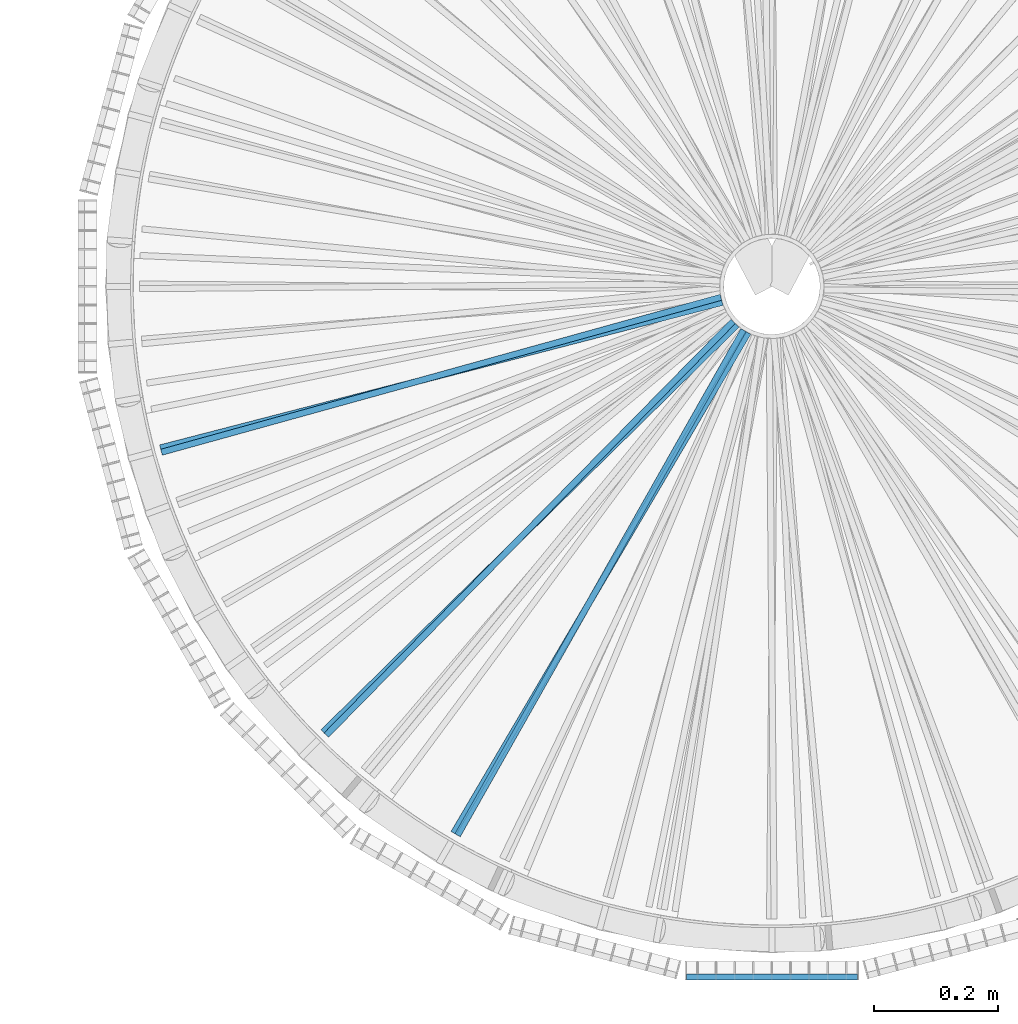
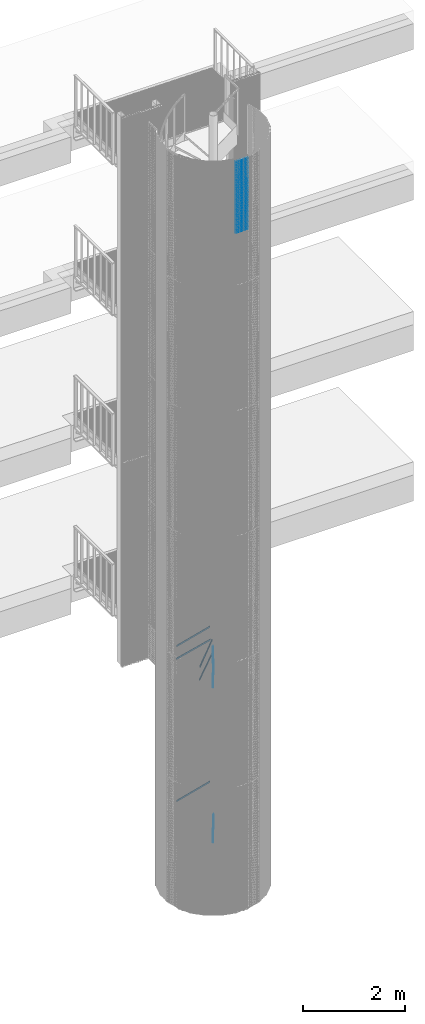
# One storey, part 375 of 1148: 66 beams, 2 elements without a shape of their own.
"""IFC2X3 building model written with IfcOpenShell, lengths in millimetres."""

import ifcopenshell
import ifcopenshell.guid

model = None  # the IFC model being written
_history = None  # IfcOwnerHistory: only IFC2X3 demands one
_inside = {}  # id of a spatial element -> (the spatial element, [elements in it])
_under = {}  # id of a project, library or spatial element -> (it, [spatial elements below it])
_declared = {}  # id of a project -> (the project, [libraries it declares])
_typed = {}  # id of a type object -> (the type object, [elements of that type])
_made_of = {}  # id of a material, layer set ... -> (it, [elements and type objects made of it])


def new_model(schema):
    """Start an empty IFC model of exactly this schema.

    Asked for "IFC4X3", IfcOpenShell would pick the latest addendum, in which some entities
    have other attributes; the version numbers below select the first issue.
    IFC2X3 requires an IfcOwnerHistory on every rooted entity: one is made here for all.
    """
    global model, _history
    if schema == "IFC4X3":
        model = ifcopenshell.file(schema_version=(4, 3, 0, 0))
    else:
        model = ifcopenshell.file(schema=schema)
    _inside.clear()
    _under.clear()
    _declared.clear()
    _typed.clear()
    _made_of.clear()
    _history = None
    if model.schema == "IFC2X3":
        org = make("IfcOrganization", Name="unknown")
        user = make(
            "IfcPersonAndOrganization",
            ThePerson=make("IfcPerson", FamilyName="unknown"),
            TheOrganization=org,
        )
        app = make(
            "IfcApplication",
            ApplicationDeveloper=org,
            Version="unknown",
            ApplicationFullName="unknown",
            ApplicationIdentifier="unknown",
        )
        _history = make(
            "IfcOwnerHistory",
            OwningUser=user,
            OwningApplication=app,
            ChangeAction="ADDED",
            CreationDate=0,
        )
    return model


def make(cls, **values):
    """One entity of the class cls with the attributes given. An attribute that is None is left unset."""
    return model.create_entity(
        cls, **{name: value for name, value in values.items() if value is not None}
    )


def rooted(cls, **values):
    """An entity with a GlobalId (a new one), such as an element, a storey or a relation."""
    return make(cls, GlobalId=ifcopenshell.guid.new(), OwnerHistory=_history, **values)


def si_unit(unit_type, name, prefix=None):
    """IfcSIUnit, for example si_unit("LENGTHUNIT", "METRE", prefix="MILLI")."""
    return make("IfcSIUnit", UnitType=unit_type, Prefix=prefix, Name=name)


def assignment(units):
    """IfcUnitAssignment: the units of a project."""
    return None if units is None else make("IfcUnitAssignment", Units=units)


def point(xyz):
    """IfcCartesianPoint."""
    return None if xyz is None else make("IfcCartesianPoint", Coordinates=xyz)


def direction(xyz):
    """IfcDirection."""
    return None if xyz is None else make("IfcDirection", DirectionRatios=xyz)


def frame(location, z_axis=None, x_axis=None):
    """IfcAxis2Placement3D, a coordinate frame: its origin and axes. An axis left out is left unset."""
    return make(
        "IfcAxis2Placement3D",
        Location=point(location),
        Axis=direction(z_axis),
        RefDirection=direction(x_axis),
    )


def frame_2d(location, x_axis=None):
    """IfcAxis2Placement2D, a coordinate frame in the plane: its origin and x axis."""
    return make(
        "IfcAxis2Placement2D", Location=point(location), RefDirection=direction(x_axis)
    )


def origin_with_axes():
    """The frame at (0, 0, 0) with the z axis (0, 0, 1) and the x axis (1, 0, 0) written out."""
    return frame((0.0, 0.0, 0.0), z_axis=(0.0, 0.0, 1.0), x_axis=(1.0, 0.0, 0.0))


def origin_2d_with_axis():
    """The frame at (0, 0) in the plane with the x axis (1, 0) written out."""
    return frame_2d((0.0, 0.0), x_axis=(1.0, 0.0))


def place(relative_to, where):
    """IfcLocalPlacement: puts the frame where relative to a parent placement (None: the world)."""
    return make(
        "IfcLocalPlacement", PlacementRelTo=relative_to, RelativePlacement=where
    )


def context(
    kind, dimensions, precision=None, world=None, true_north=None, identifier=None
):
    """IfcGeometricRepresentationContext, for example the 3D "Model" context."""
    return make(
        "IfcGeometricRepresentationContext",
        ContextIdentifier=identifier,
        ContextType=kind,
        CoordinateSpaceDimension=dimensions,
        Precision=precision,
        WorldCoordinateSystem=world,
        TrueNorth=true_north,
    )


def subcontext(parent, identifier, kind, view, scale=None):
    """IfcGeometricRepresentationSubContext, for example "Body" below "Model"."""
    return make(
        "IfcGeometricRepresentationSubContext",
        ContextIdentifier=identifier,
        ContextType=kind,
        ParentContext=parent,
        TargetScale=scale,
        TargetView=view,
    )


def project(units=None, contexts=None):
    """IfcProject with its units and contexts."""
    return rooted(
        "IfcProject",
        Name="project",
        RepresentationContexts=contexts,
        UnitsInContext=assignment(units),
    )


def spatial(cls, under=None, at=None, **own):
    """A site, building, storey or space (cls), placed at a placement, below another one or the project."""
    s = rooted(cls, ObjectPlacement=at, **own)
    if under is not None:
        _under.setdefault(under.id(), (under, []))[1].append(s)
    return s


def profile(cls, at=None, kind="AREA", **sizes):
    """A parametric profile (cls). Its sizes go by their IFC names, for example OverallWidth=200.0."""
    return make(cls, ProfileType=kind, Position=at, **sizes)


def rectangle(**sizes):
    """IfcRectangleProfileDef."""
    return profile("IfcRectangleProfileDef", **sizes)


def extrude(swept, where, along, depth):
    """IfcExtrudedAreaSolid: the profile swept, set in the frame where, extruded along a direction by depth."""
    return make(
        "IfcExtrudedAreaSolid",
        SweptArea=swept,
        Position=where,
        ExtrudedDirection=direction(along),
        Depth=depth,
    )


def shape(context_of_items, identifier, shape_type, items):
    """IfcShapeRepresentation: the items that make up one representation, for example the "Body"."""
    return make(
        "IfcShapeRepresentation",
        ContextOfItems=context_of_items,
        RepresentationIdentifier=identifier,
        RepresentationType=shape_type,
        Items=items,
    )


def material(Name=None, Category=None):
    """IfcMaterial."""
    return make("IfcMaterial", Name=Name, Category=Category)


def made_of(thing, what):
    """Note that an element or type object is made of a material, layer set ...; save() writes the relation."""
    if what is not None:
        _made_of.setdefault(what.id(), (what, []))[1].append(thing)
    return thing


def type_object(cls, material=None, **own):
    """A type object (cls), such as IfcWallType, which elements share."""
    return made_of(rooted(cls, **own), material)


def element(
    cls,
    number,
    at=None,
    inside=None,
    cuts=None,
    type_object=None,
    material=None,
    context=None,
    identifier="Body",
    shape_type=None,
    held_by="IfcProductDefinitionShape",
    body=None,
    shapes=None,
    **own,
):
    """One element of the class cls, such as IfcWall. Its Tag is "e" and its number.

    at: its placement. inside: the storey or other place that contains it. cuts: it is an
    opening in that element (IfcRelVoidsElement). A single representation is given by context,
    identifier, shape_type and body (its items); several are given by shapes. held_by: the class
    of the entity that holds the representations. save() writes the other relations.
    """
    e = rooted(cls, Tag="e%d" % number, ObjectPlacement=at, **own)
    if body is not None:
        shapes = [shape(context, identifier, shape_type, body)]
    if shapes is not None:
        e.Representation = make(held_by, Representations=shapes)
    if inside is not None:
        _inside.setdefault(inside.id(), (inside, []))[1].append(e)
    if cuts is not None:
        rooted(
            "IfcRelVoidsElement", RelatingBuildingElement=cuts, RelatedOpeningElement=e
        )
    if type_object is not None:
        _typed.setdefault(type_object.id(), (type_object, []))[1].append(e)
    return made_of(e, material)


def aggregate(whole, parts):
    """IfcRelAggregates: a whole, such as a stair, and the parts it consists of."""
    return rooted("IfcRelAggregates", RelatingObject=whole, RelatedObjects=parts)


def save(model, path):
    """Write the relations noted so far, then the file.

    IfcRelAggregates (storeys below a building ...), IfcRelContainedInSpatialStructure (elements
    in a storey), IfcRelDefinesByType, IfcRelAssociatesMaterial and IfcRelDeclares: one each for
    every whole, place, type object, material and project.
    """
    for whole, parts in _under.values():
        aggregate(whole, parts)
    for where, things in _inside.values():
        rooted(
            "IfcRelContainedInSpatialStructure",
            RelatedElements=things,
            RelatingStructure=where,
        )
    for kind, things in _typed.values():
        rooted("IfcRelDefinesByType", RelatedObjects=things, RelatingType=kind)
    for what, things in _made_of.values():
        rooted("IfcRelAssociatesMaterial", RelatedObjects=things, RelatingMaterial=what)
    for by, libraries in _declared.values():
        rooted("IfcRelDeclares", RelatingContext=by, RelatedDefinitions=libraries)
    model.write(path)


model = new_model("IFC2X3")

# Units and contexts
model_context = context("Model", 3, precision=1e-05, world=origin_with_axes())
body_context = subcontext(model_context, "Body", "Model", "MODEL_VIEW")
ifc_project = project(units=[si_unit("LENGTHUNIT", "METRE", prefix="MILLI"), si_unit("AREAUNIT", "SQUARE_METRE"), si_unit("VOLUMEUNIT", "CUBIC_METRE"), si_unit("MASSUNIT", "GRAM", prefix="KILO"), si_unit("TIMEUNIT", "SECOND"), si_unit("PLANEANGLEUNIT", "RADIAN"), si_unit("SOLIDANGLEUNIT", "STERADIAN"), si_unit("THERMODYNAMICTEMPERATUREUNIT", "DEGREE_CELSIUS"), si_unit("LUMINOUSINTENSITYUNIT", "LUMEN")], contexts=[model_context])

# Site, building, storey
site_placement = place(None, origin_with_axes())
site = spatial("IfcSite", under=ifc_project, at=site_placement, Name="Undefined", CompositionType="ELEMENT")
building_placement = place(site_placement, origin_with_axes())
building = spatial("IfcBuilding", under=site, at=building_placement, Name="Undefined", CompositionType="ELEMENT")
storey_placement = place(building_placement, origin_with_axes())
storey = spatial("IfcBuildingStorey", under=building, at=storey_placement, Name="Undefined", CompositionType="ELEMENT", Elevation=0.0)

# Assembly, beams
assembly_1_placement = place(storey_placement, origin_with_axes())
assembly_1 = element("IfcElementAssembly", 1, at=assembly_1_placement, inside=storey, Name="BORDURE", AssemblyPlace="NOTDEFINED", PredefinedType="NOTDEFINED")
ifc_material = material(Name="STEEL/S235JR")
beam_type_1 = type_object("IfcBeamType", Name="PL2*10", PredefinedType="NOTDEFINED")
beam_1_placement = place(assembly_1_placement, frame((21737.9960033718, -1113.47999999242, 17970.0), z_axis=(0.0, -1.0, 0.0), x_axis=(-1.0, 0.0, 0.0)))
beam_1 = element("IfcBeam", 2, at=beam_1_placement, type_object=beam_type_1, material=ifc_material, Name="ENTRETOISE", context=body_context, shape_type="SweptSolid", body=[
    extrude(rectangle(XDim=2.0, YDim=10.0, at=origin_2d_with_axis()), frame((275.999999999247, 9.09494701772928e-13, 1.53210777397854e-14), z_axis=(-1.0, 0.0, 0.0), x_axis=(0.0, -1.0, 0.0)), (0.0, 0.0, 1.0), 276.0),
])
beam_2_placement = place(assembly_1_placement, frame((21737.9960033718, -1113.47999999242, 17940.0), z_axis=(0.0, -1.0, 0.0), x_axis=(-1.0, 0.0, 0.0)))
beam_2 = element("IfcBeam", 3, at=beam_2_placement, type_object=beam_type_1, material=ifc_material, Name="ENTRETOISE", context=body_context, shape_type="SweptSolid", body=[
    extrude(rectangle(XDim=2.0, YDim=10.0, at=origin_2d_with_axis()), frame((275.999999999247, 9.09494701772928e-13, 1.53210777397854e-14), z_axis=(-1.0, 0.0, 0.0), x_axis=(0.0, -1.0, 0.0)), (0.0, 0.0, 1.0), 276.0),
])
beam_3_placement = place(assembly_1_placement, frame((21737.9960033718, -1113.47999999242, 17910.0), z_axis=(0.0, -1.0, 0.0), x_axis=(-1.0, 0.0, 0.0)))
beam_3 = element("IfcBeam", 4, at=beam_3_placement, type_object=beam_type_1, material=ifc_material, Name="ENTRETOISE", context=body_context, shape_type="SweptSolid", body=[
    extrude(rectangle(XDim=2.0, YDim=10.0, at=origin_2d_with_axis()), frame((275.999999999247, 9.09494701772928e-13, 1.53210777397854e-14), z_axis=(-1.0, 0.0, 0.0), x_axis=(0.0, -1.0, 0.0)), (0.0, 0.0, 1.0), 276.0),
])
beam_4_placement = place(assembly_1_placement, frame((21737.9960033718, -1113.47999999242, 17880.0), z_axis=(0.0, -1.0, 0.0), x_axis=(-1.0, 0.0, 0.0)))
beam_4 = element("IfcBeam", 5, at=beam_4_placement, type_object=beam_type_1, material=ifc_material, Name="ENTRETOISE", context=body_context, shape_type="SweptSolid", body=[
    extrude(rectangle(XDim=2.0, YDim=10.0, at=origin_2d_with_axis()), frame((275.999999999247, 9.09494701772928e-13, 1.53210777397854e-14), z_axis=(-1.0, 0.0, 0.0), x_axis=(0.0, -1.0, 0.0)), (0.0, 0.0, 1.0), 276.0),
])
beam_5_placement = place(assembly_1_placement, frame((21737.9960033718, -1113.47999999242, 17850.0), z_axis=(0.0, -1.0, 0.0), x_axis=(-1.0, 0.0, 0.0)))
beam_5 = element("IfcBeam", 6, at=beam_5_placement, type_object=beam_type_1, material=ifc_material, Name="ENTRETOISE", context=body_context, shape_type="SweptSolid", body=[
    extrude(rectangle(XDim=2.0, YDim=10.0, at=origin_2d_with_axis()), frame((275.999999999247, 9.09494701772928e-13, 1.53210777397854e-14), z_axis=(-1.0, 0.0, 0.0), x_axis=(0.0, -1.0, 0.0)), (0.0, 0.0, 1.0), 276.0),
])
beam_6_placement = place(assembly_1_placement, frame((21737.9960033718, -1113.47999999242, 17820.0), z_axis=(0.0, -1.0, 0.0), x_axis=(-1.0, 0.0, 0.0)))
beam_6 = element("IfcBeam", 7, at=beam_6_placement, type_object=beam_type_1, material=ifc_material, Name="ENTRETOISE", context=body_context, shape_type="SweptSolid", body=[
    extrude(rectangle(XDim=2.0, YDim=10.0, at=origin_2d_with_axis()), frame((275.999999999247, 9.09494701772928e-13, 1.53210777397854e-14), z_axis=(-1.0, 0.0, 0.0), x_axis=(0.0, -1.0, 0.0)), (0.0, 0.0, 1.0), 276.0),
])
beam_7_placement = place(assembly_1_placement, frame((21737.9960033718, -1113.47999999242, 17790.0), z_axis=(0.0, -1.0, 0.0), x_axis=(-1.0, 0.0, 0.0)))
beam_7 = element("IfcBeam", 8, at=beam_7_placement, type_object=beam_type_1, material=ifc_material, Name="ENTRETOISE", context=body_context, shape_type="SweptSolid", body=[
    extrude(rectangle(XDim=2.0, YDim=10.0, at=origin_2d_with_axis()), frame((275.999999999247, 9.09494701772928e-13, 1.53210777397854e-14), z_axis=(-1.0, 0.0, 0.0), x_axis=(0.0, -1.0, 0.0)), (0.0, 0.0, 1.0), 276.0),
])
beam_8_placement = place(assembly_1_placement, frame((21737.9960033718, -1113.47999999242, 17760.0), z_axis=(0.0, -1.0, 0.0), x_axis=(-1.0, 0.0, 0.0)))
beam_8 = element("IfcBeam", 9, at=beam_8_placement, type_object=beam_type_1, material=ifc_material, Name="ENTRETOISE", context=body_context, shape_type="SweptSolid", body=[
    extrude(rectangle(XDim=2.0, YDim=10.0, at=origin_2d_with_axis()), frame((275.999999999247, 9.09494701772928e-13, 1.53210777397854e-14), z_axis=(-1.0, 0.0, 0.0), x_axis=(0.0, -1.0, 0.0)), (0.0, 0.0, 1.0), 276.0),
])
beam_9_placement = place(assembly_1_placement, frame((21737.9960033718, -1113.47999999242, 17730.0), z_axis=(0.0, -1.0, 0.0), x_axis=(-1.0, 0.0, 0.0)))
beam_9 = element("IfcBeam", 10, at=beam_9_placement, type_object=beam_type_1, material=ifc_material, Name="ENTRETOISE", context=body_context, shape_type="SweptSolid", body=[
    extrude(rectangle(XDim=2.0, YDim=10.0, at=origin_2d_with_axis()), frame((275.999999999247, 9.09494701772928e-13, 1.53210777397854e-14), z_axis=(-1.0, 0.0, 0.0), x_axis=(0.0, -1.0, 0.0)), (0.0, 0.0, 1.0), 276.0),
])
beam_10_placement = place(assembly_1_placement, frame((21737.9960033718, -1113.47999999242, 17700.0), z_axis=(0.0, -1.0, 0.0), x_axis=(-1.0, 0.0, 0.0)))
beam_10 = element("IfcBeam", 11, at=beam_10_placement, type_object=beam_type_1, material=ifc_material, Name="ENTRETOISE", context=body_context, shape_type="SweptSolid", body=[
    extrude(rectangle(XDim=2.0, YDim=10.0, at=origin_2d_with_axis()), frame((275.999999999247, 9.09494701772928e-13, 1.53210777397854e-14), z_axis=(-1.0, 0.0, 0.0), x_axis=(0.0, -1.0, 0.0)), (0.0, 0.0, 1.0), 276.0),
])
beam_11_placement = place(assembly_1_placement, frame((21737.9960033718, -1113.47999999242, 17670.0), z_axis=(0.0, -1.0, 0.0), x_axis=(-1.0, 0.0, 0.0)))
beam_11 = element("IfcBeam", 12, at=beam_11_placement, type_object=beam_type_1, material=ifc_material, Name="ENTRETOISE", context=body_context, shape_type="SweptSolid", body=[
    extrude(rectangle(XDim=2.0, YDim=10.0, at=origin_2d_with_axis()), frame((275.999999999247, 9.09494701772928e-13, 1.53210777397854e-14), z_axis=(-1.0, 0.0, 0.0), x_axis=(0.0, -1.0, 0.0)), (0.0, 0.0, 1.0), 276.0),
])
beam_12_placement = place(assembly_1_placement, frame((21737.9960033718, -1113.47999999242, 17640.0), z_axis=(0.0, -1.0, 0.0), x_axis=(-1.0, 0.0, 0.0)))
beam_12 = element("IfcBeam", 13, at=beam_12_placement, type_object=beam_type_1, material=ifc_material, Name="ENTRETOISE", context=body_context, shape_type="SweptSolid", body=[
    extrude(rectangle(XDim=2.0, YDim=10.0, at=origin_2d_with_axis()), frame((275.999999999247, 9.09494701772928e-13, 1.53210777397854e-14), z_axis=(-1.0, 0.0, 0.0), x_axis=(0.0, -1.0, 0.0)), (0.0, 0.0, 1.0), 276.0),
])
beam_13_placement = place(assembly_1_placement, frame((21737.9960033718, -1113.47999999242, 17610.0), z_axis=(0.0, -1.0, 0.0), x_axis=(-1.0, 0.0, 0.0)))
beam_13 = element("IfcBeam", 14, at=beam_13_placement, type_object=beam_type_1, material=ifc_material, Name="ENTRETOISE", context=body_context, shape_type="SweptSolid", body=[
    extrude(rectangle(XDim=2.0, YDim=10.0, at=origin_2d_with_axis()), frame((275.999999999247, 9.09494701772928e-13, 1.53210777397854e-14), z_axis=(-1.0, 0.0, 0.0), x_axis=(0.0, -1.0, 0.0)), (0.0, 0.0, 1.0), 276.0),
])
beam_14_placement = place(assembly_1_placement, frame((21737.9960033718, -1113.47999999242, 17580.0), z_axis=(0.0, -1.0, 0.0), x_axis=(-1.0, 0.0, 0.0)))
beam_14 = element("IfcBeam", 15, at=beam_14_placement, type_object=beam_type_1, material=ifc_material, Name="ENTRETOISE", context=body_context, shape_type="SweptSolid", body=[
    extrude(rectangle(XDim=2.0, YDim=10.0, at=origin_2d_with_axis()), frame((275.999999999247, 9.09494701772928e-13, 1.53210777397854e-14), z_axis=(-1.0, 0.0, 0.0), x_axis=(0.0, -1.0, 0.0)), (0.0, 0.0, 1.0), 276.0),
])
beam_15_placement = place(assembly_1_placement, frame((21737.9960033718, -1113.47999999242, 17550.0), z_axis=(0.0, -1.0, 0.0), x_axis=(-1.0, 0.0, 0.0)))
beam_15 = element("IfcBeam", 16, at=beam_15_placement, type_object=beam_type_1, material=ifc_material, Name="ENTRETOISE", context=body_context, shape_type="SweptSolid", body=[
    extrude(rectangle(XDim=2.0, YDim=10.0, at=origin_2d_with_axis()), frame((275.999999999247, 9.09494701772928e-13, 1.53210777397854e-14), z_axis=(-1.0, 0.0, 0.0), x_axis=(0.0, -1.0, 0.0)), (0.0, 0.0, 1.0), 276.0),
])
beam_16_placement = place(assembly_1_placement, frame((21737.9960033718, -1113.47999999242, 17520.0), z_axis=(0.0, -1.0, 0.0), x_axis=(-1.0, 0.0, 0.0)))
beam_16 = element("IfcBeam", 17, at=beam_16_placement, type_object=beam_type_1, material=ifc_material, Name="ENTRETOISE", context=body_context, shape_type="SweptSolid", body=[
    extrude(rectangle(XDim=2.0, YDim=10.0, at=origin_2d_with_axis()), frame((275.999999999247, 9.09494701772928e-13, 1.53210777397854e-14), z_axis=(-1.0, 0.0, 0.0), x_axis=(0.0, -1.0, 0.0)), (0.0, 0.0, 1.0), 276.0),
])
beam_17_placement = place(assembly_1_placement, frame((21737.9960033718, -1113.47999999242, 17490.0), z_axis=(0.0, -1.0, 0.0), x_axis=(-1.0, 0.0, 0.0)))
beam_17 = element("IfcBeam", 18, at=beam_17_placement, type_object=beam_type_1, material=ifc_material, Name="ENTRETOISE", context=body_context, shape_type="SweptSolid", body=[
    extrude(rectangle(XDim=2.0, YDim=10.0, at=origin_2d_with_axis()), frame((275.999999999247, 9.09494701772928e-13, 1.53210777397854e-14), z_axis=(-1.0, 0.0, 0.0), x_axis=(0.0, -1.0, 0.0)), (0.0, 0.0, 1.0), 276.0),
])
beam_18_placement = place(assembly_1_placement, frame((21737.9960033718, -1113.47999999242, 17460.0), z_axis=(0.0, -1.0, 0.0), x_axis=(-1.0, 0.0, 0.0)))
beam_18 = element("IfcBeam", 19, at=beam_18_placement, type_object=beam_type_1, material=ifc_material, Name="ENTRETOISE", context=body_context, shape_type="SweptSolid", body=[
    extrude(rectangle(XDim=2.0, YDim=10.0, at=origin_2d_with_axis()), frame((275.999999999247, 9.09494701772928e-13, 1.53210777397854e-14), z_axis=(-1.0, 0.0, 0.0), x_axis=(0.0, -1.0, 0.0)), (0.0, 0.0, 1.0), 276.0),
])
beam_19_placement = place(assembly_1_placement, frame((21737.9960033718, -1113.47999999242, 17430.0), z_axis=(0.0, -1.0, 0.0), x_axis=(-1.0, 0.0, 0.0)))
beam_19 = element("IfcBeam", 20, at=beam_19_placement, type_object=beam_type_1, material=ifc_material, Name="ENTRETOISE", context=body_context, shape_type="SweptSolid", body=[
    extrude(rectangle(XDim=2.0, YDim=10.0, at=origin_2d_with_axis()), frame((275.999999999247, 9.09494701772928e-13, 1.53210777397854e-14), z_axis=(-1.0, 0.0, 0.0), x_axis=(0.0, -1.0, 0.0)), (0.0, 0.0, 1.0), 276.0),
])
beam_20_placement = place(assembly_1_placement, frame((21737.9960033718, -1113.47999999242, 17400.0), z_axis=(0.0, -1.0, 0.0), x_axis=(-1.0, 0.0, 0.0)))
beam_20 = element("IfcBeam", 21, at=beam_20_placement, type_object=beam_type_1, material=ifc_material, Name="ENTRETOISE", context=body_context, shape_type="SweptSolid", body=[
    extrude(rectangle(XDim=2.0, YDim=10.0, at=origin_2d_with_axis()), frame((275.999999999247, 9.09494701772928e-13, 1.53210777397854e-14), z_axis=(-1.0, 0.0, 0.0), x_axis=(0.0, -1.0, 0.0)), (0.0, 0.0, 1.0), 276.0),
])
beam_21_placement = place(assembly_1_placement, frame((21737.9960033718, -1113.47999999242, 17370.0), z_axis=(0.0, -1.0, 0.0), x_axis=(-1.0, 0.0, 0.0)))
beam_21 = element("IfcBeam", 22, at=beam_21_placement, type_object=beam_type_1, material=ifc_material, Name="ENTRETOISE", context=body_context, shape_type="SweptSolid", body=[
    extrude(rectangle(XDim=2.0, YDim=10.0, at=origin_2d_with_axis()), frame((275.999999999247, 9.09494701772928e-13, 1.53210777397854e-14), z_axis=(-1.0, 0.0, 0.0), x_axis=(0.0, -1.0, 0.0)), (0.0, 0.0, 1.0), 276.0),
])
beam_22_placement = place(assembly_1_placement, frame((21737.9960033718, -1113.47999999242, 17340.0), z_axis=(0.0, -1.0, 0.0), x_axis=(-1.0, 0.0, 0.0)))
beam_22 = element("IfcBeam", 23, at=beam_22_placement, type_object=beam_type_1, material=ifc_material, Name="ENTRETOISE", context=body_context, shape_type="SweptSolid", body=[
    extrude(rectangle(XDim=2.0, YDim=10.0, at=origin_2d_with_axis()), frame((275.999999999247, 9.09494701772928e-13, 1.53210777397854e-14), z_axis=(-1.0, 0.0, 0.0), x_axis=(0.0, -1.0, 0.0)), (0.0, 0.0, 1.0), 276.0),
])
beam_23_placement = place(assembly_1_placement, frame((21737.9960033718, -1113.47999999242, 17310.0), z_axis=(0.0, -1.0, 0.0), x_axis=(-1.0, 0.0, 0.0)))
beam_23 = element("IfcBeam", 24, at=beam_23_placement, type_object=beam_type_1, material=ifc_material, Name="ENTRETOISE", context=body_context, shape_type="SweptSolid", body=[
    extrude(rectangle(XDim=2.0, YDim=10.0, at=origin_2d_with_axis()), frame((275.999999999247, 9.09494701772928e-13, 1.53210777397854e-14), z_axis=(-1.0, 0.0, 0.0), x_axis=(0.0, -1.0, 0.0)), (0.0, 0.0, 1.0), 276.0),
])
beam_24_placement = place(assembly_1_placement, frame((21737.9960033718, -1113.47999999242, 17280.0), z_axis=(0.0, -1.0, 0.0), x_axis=(-1.0, 0.0, 0.0)))
beam_24 = element("IfcBeam", 25, at=beam_24_placement, type_object=beam_type_1, material=ifc_material, Name="ENTRETOISE", context=body_context, shape_type="SweptSolid", body=[
    extrude(rectangle(XDim=2.0, YDim=10.0, at=origin_2d_with_axis()), frame((275.999999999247, 9.09494701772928e-13, 1.53210777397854e-14), z_axis=(-1.0, 0.0, 0.0), x_axis=(0.0, -1.0, 0.0)), (0.0, 0.0, 1.0), 276.0),
])
beam_25_placement = place(assembly_1_placement, frame((21737.9960033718, -1113.47999999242, 17250.0), z_axis=(0.0, -1.0, 0.0), x_axis=(-1.0, 0.0, 0.0)))
beam_25 = element("IfcBeam", 26, at=beam_25_placement, type_object=beam_type_1, material=ifc_material, Name="ENTRETOISE", context=body_context, shape_type="SweptSolid", body=[
    extrude(rectangle(XDim=2.0, YDim=10.0, at=origin_2d_with_axis()), frame((275.999999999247, 9.09494701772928e-13, 1.53210777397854e-14), z_axis=(-1.0, 0.0, 0.0), x_axis=(0.0, -1.0, 0.0)), (0.0, 0.0, 1.0), 276.0),
])
beam_26_placement = place(assembly_1_placement, frame((21737.9960033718, -1113.47999999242, 17220.0), z_axis=(0.0, -1.0, 0.0), x_axis=(-1.0, 0.0, 0.0)))
beam_26 = element("IfcBeam", 27, at=beam_26_placement, type_object=beam_type_1, material=ifc_material, Name="ENTRETOISE", context=body_context, shape_type="SweptSolid", body=[
    extrude(rectangle(XDim=2.0, YDim=10.0, at=origin_2d_with_axis()), frame((275.999999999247, 9.09494701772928e-13, 1.53210777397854e-14), z_axis=(-1.0, 0.0, 0.0), x_axis=(0.0, -1.0, 0.0)), (0.0, 0.0, 1.0), 276.0),
])
beam_27_placement = place(assembly_1_placement, frame((21737.9960033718, -1113.47999999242, 17190.0), z_axis=(0.0, -1.0, 0.0), x_axis=(-1.0, 0.0, 0.0)))
beam_27 = element("IfcBeam", 28, at=beam_27_placement, type_object=beam_type_1, material=ifc_material, Name="ENTRETOISE", context=body_context, shape_type="SweptSolid", body=[
    extrude(rectangle(XDim=2.0, YDim=10.0, at=origin_2d_with_axis()), frame((275.999999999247, 9.09494701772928e-13, 1.53210777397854e-14), z_axis=(-1.0, 0.0, 0.0), x_axis=(0.0, -1.0, 0.0)), (0.0, 0.0, 1.0), 276.0),
])
beam_28_placement = place(assembly_1_placement, frame((21737.9960033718, -1113.47999999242, 17160.0), z_axis=(0.0, -1.0, 0.0), x_axis=(-1.0, 0.0, 0.0)))
beam_28 = element("IfcBeam", 29, at=beam_28_placement, type_object=beam_type_1, material=ifc_material, Name="ENTRETOISE", context=body_context, shape_type="SweptSolid", body=[
    extrude(rectangle(XDim=2.0, YDim=10.0, at=origin_2d_with_axis()), frame((275.999999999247, 9.09494701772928e-13, 1.53210777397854e-14), z_axis=(-1.0, 0.0, 0.0), x_axis=(0.0, -1.0, 0.0)), (0.0, 0.0, 1.0), 276.0),
])
beam_29_placement = place(assembly_1_placement, frame((21737.9960033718, -1113.47999999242, 17130.0), z_axis=(0.0, -1.0, 0.0), x_axis=(-1.0, 0.0, 0.0)))
beam_29 = element("IfcBeam", 30, at=beam_29_placement, type_object=beam_type_1, material=ifc_material, Name="ENTRETOISE", context=body_context, shape_type="SweptSolid", body=[
    extrude(rectangle(XDim=2.0, YDim=10.0, at=origin_2d_with_axis()), frame((275.999999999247, 9.09494701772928e-13, 1.53210777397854e-14), z_axis=(-1.0, 0.0, 0.0), x_axis=(0.0, -1.0, 0.0)), (0.0, 0.0, 1.0), 276.0),
])
beam_30_placement = place(assembly_1_placement, frame((21737.9960033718, -1113.47999999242, 17100.0), z_axis=(0.0, -1.0, 0.0), x_axis=(-1.0, 0.0, 0.0)))
beam_30 = element("IfcBeam", 31, at=beam_30_placement, type_object=beam_type_1, material=ifc_material, Name="ENTRETOISE", context=body_context, shape_type="SweptSolid", body=[
    extrude(rectangle(XDim=2.0, YDim=10.0, at=origin_2d_with_axis()), frame((275.999999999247, 9.09494701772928e-13, 1.53210777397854e-14), z_axis=(-1.0, 0.0, 0.0), x_axis=(0.0, -1.0, 0.0)), (0.0, 0.0, 1.0), 276.0),
])
beam_31_placement = place(assembly_1_placement, frame((21737.9960033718, -1113.47999999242, 17070.0), z_axis=(0.0, -1.0, 0.0), x_axis=(-1.0, 0.0, 0.0)))
beam_31 = element("IfcBeam", 32, at=beam_31_placement, type_object=beam_type_1, material=ifc_material, Name="ENTRETOISE", context=body_context, shape_type="SweptSolid", body=[
    extrude(rectangle(XDim=2.0, YDim=10.0, at=origin_2d_with_axis()), frame((275.999999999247, 9.09494701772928e-13, 1.53210777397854e-14), z_axis=(-1.0, 0.0, 0.0), x_axis=(0.0, -1.0, 0.0)), (0.0, 0.0, 1.0), 276.0),
])
beam_32_placement = place(assembly_1_placement, frame((21737.9960033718, -1113.47999999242, 17040.0), z_axis=(0.0, -1.0, 0.0), x_axis=(-1.0, 0.0, 0.0)))
beam_32 = element("IfcBeam", 33, at=beam_32_placement, type_object=beam_type_1, material=ifc_material, Name="ENTRETOISE", context=body_context, shape_type="SweptSolid", body=[
    extrude(rectangle(XDim=2.0, YDim=10.0, at=origin_2d_with_axis()), frame((275.999999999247, 9.09494701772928e-13, 1.53210777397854e-14), z_axis=(-1.0, 0.0, 0.0), x_axis=(0.0, -1.0, 0.0)), (0.0, 0.0, 1.0), 276.0),
])
beam_33_placement = place(assembly_1_placement, frame((21737.9960033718, -1113.47999999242, 17010.0), z_axis=(0.0, -1.0, 0.0), x_axis=(-1.0, 0.0, 0.0)))
beam_33 = element("IfcBeam", 34, at=beam_33_placement, type_object=beam_type_1, material=ifc_material, Name="ENTRETOISE", context=body_context, shape_type="SweptSolid", body=[
    extrude(rectangle(XDim=2.0, YDim=10.0, at=origin_2d_with_axis()), frame((275.999999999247, 9.09494701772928e-13, 1.53210777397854e-14), z_axis=(-1.0, 0.0, 0.0), x_axis=(0.0, -1.0, 0.0)), (0.0, 0.0, 1.0), 276.0),
])
beam_34_placement = place(assembly_1_placement, frame((21737.9960033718, -1113.47999999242, 16980.0), z_axis=(0.0, -1.0, 0.0), x_axis=(-1.0, 0.0, 0.0)))
beam_34 = element("IfcBeam", 35, at=beam_34_placement, type_object=beam_type_1, material=ifc_material, Name="ENTRETOISE", context=body_context, shape_type="SweptSolid", body=[
    extrude(rectangle(XDim=2.0, YDim=10.0, at=origin_2d_with_axis()), frame((275.999999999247, 9.09494701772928e-13, 1.53210777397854e-14), z_axis=(-1.0, 0.0, 0.0), x_axis=(0.0, -1.0, 0.0)), (0.0, 0.0, 1.0), 276.0),
])
beam_35_placement = place(assembly_1_placement, frame((21737.9960033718, -1113.47999999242, 16950.0), z_axis=(0.0, -1.0, 0.0), x_axis=(-1.0, 0.0, 0.0)))
beam_35 = element("IfcBeam", 36, at=beam_35_placement, type_object=beam_type_1, material=ifc_material, Name="ENTRETOISE", context=body_context, shape_type="SweptSolid", body=[
    extrude(rectangle(XDim=2.0, YDim=10.0, at=origin_2d_with_axis()), frame((275.999999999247, 9.09494701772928e-13, 1.53210777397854e-14), z_axis=(-1.0, 0.0, 0.0), x_axis=(0.0, -1.0, 0.0)), (0.0, 0.0, 1.0), 276.0),
])
beam_36_placement = place(assembly_1_placement, frame((21737.9960033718, -1113.47999999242, 16920.0), z_axis=(0.0, -1.0, 0.0), x_axis=(-1.0, 0.0, 0.0)))
beam_36 = element("IfcBeam", 37, at=beam_36_placement, type_object=beam_type_1, material=ifc_material, Name="ENTRETOISE", context=body_context, shape_type="SweptSolid", body=[
    extrude(rectangle(XDim=2.0, YDim=10.0, at=origin_2d_with_axis()), frame((275.999999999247, 9.09494701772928e-13, 1.53210777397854e-14), z_axis=(-1.0, 0.0, 0.0), x_axis=(0.0, -1.0, 0.0)), (0.0, 0.0, 1.0), 276.0),
])
beam_37_placement = place(assembly_1_placement, frame((21737.9960033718, -1113.47999999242, 16890.0), z_axis=(0.0, -1.0, 0.0), x_axis=(-1.0, 0.0, 0.0)))
beam_37 = element("IfcBeam", 38, at=beam_37_placement, type_object=beam_type_1, material=ifc_material, Name="ENTRETOISE", context=body_context, shape_type="SweptSolid", body=[
    extrude(rectangle(XDim=2.0, YDim=10.0, at=origin_2d_with_axis()), frame((275.999999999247, 9.09494701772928e-13, 1.53210777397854e-14), z_axis=(-1.0, 0.0, 0.0), x_axis=(0.0, -1.0, 0.0)), (0.0, 0.0, 1.0), 276.0),
])
beam_38_placement = place(assembly_1_placement, frame((21737.9960033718, -1113.47999999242, 16860.0), z_axis=(0.0, -1.0, 0.0), x_axis=(-1.0, 0.0, 0.0)))
beam_38 = element("IfcBeam", 39, at=beam_38_placement, type_object=beam_type_1, material=ifc_material, Name="ENTRETOISE", context=body_context, shape_type="SweptSolid", body=[
    extrude(rectangle(XDim=2.0, YDim=10.0, at=origin_2d_with_axis()), frame((275.999999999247, 9.09494701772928e-13, 1.53210777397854e-14), z_axis=(-1.0, 0.0, 0.0), x_axis=(0.0, -1.0, 0.0)), (0.0, 0.0, 1.0), 276.0),
])
beam_39_placement = place(assembly_1_placement, frame((21737.9960033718, -1113.47999999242, 16830.0), z_axis=(0.0, -1.0, 0.0), x_axis=(-1.0, 0.0, 0.0)))
beam_39 = element("IfcBeam", 40, at=beam_39_placement, type_object=beam_type_1, material=ifc_material, Name="ENTRETOISE", context=body_context, shape_type="SweptSolid", body=[
    extrude(rectangle(XDim=2.0, YDim=10.0, at=origin_2d_with_axis()), frame((275.999999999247, 9.09494701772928e-13, 1.53210777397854e-14), z_axis=(-1.0, 0.0, 0.0), x_axis=(0.0, -1.0, 0.0)), (0.0, 0.0, 1.0), 276.0),
])
beam_40_placement = place(assembly_1_placement, frame((21737.9960033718, -1113.47999999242, 16800.0), z_axis=(0.0, -1.0, 0.0), x_axis=(-1.0, 0.0, 0.0)))
beam_40 = element("IfcBeam", 41, at=beam_40_placement, type_object=beam_type_1, material=ifc_material, Name="ENTRETOISE", context=body_context, shape_type="SweptSolid", body=[
    extrude(rectangle(XDim=2.0, YDim=10.0, at=origin_2d_with_axis()), frame((275.999999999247, 9.09494701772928e-13, 1.53210777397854e-14), z_axis=(-1.0, 0.0, 0.0), x_axis=(0.0, -1.0, 0.0)), (0.0, 0.0, 1.0), 276.0),
])
beam_41_placement = place(assembly_1_placement, frame((21737.9960033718, -1113.47999999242, 16770.0), z_axis=(0.0, -1.0, 0.0), x_axis=(-1.0, 0.0, 0.0)))
beam_41 = element("IfcBeam", 42, at=beam_41_placement, type_object=beam_type_1, material=ifc_material, Name="ENTRETOISE", context=body_context, shape_type="SweptSolid", body=[
    extrude(rectangle(XDim=2.0, YDim=10.0, at=origin_2d_with_axis()), frame((275.999999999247, 9.09494701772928e-13, 1.53210777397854e-14), z_axis=(-1.0, 0.0, 0.0), x_axis=(0.0, -1.0, 0.0)), (0.0, 0.0, 1.0), 276.0),
])
beam_42_placement = place(assembly_1_placement, frame((21737.9960033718, -1113.47999999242, 16740.0), z_axis=(0.0, -1.0, 0.0), x_axis=(-1.0, 0.0, 0.0)))
beam_42 = element("IfcBeam", 43, at=beam_42_placement, type_object=beam_type_1, material=ifc_material, Name="ENTRETOISE", context=body_context, shape_type="SweptSolid", body=[
    extrude(rectangle(XDim=2.0, YDim=10.0, at=origin_2d_with_axis()), frame((275.999999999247, 9.09494701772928e-13, 1.53210777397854e-14), z_axis=(-1.0, 0.0, 0.0), x_axis=(0.0, -1.0, 0.0)), (0.0, 0.0, 1.0), 276.0),
])
beam_43_placement = place(assembly_1_placement, frame((21737.9960033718, -1113.47999999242, 16710.0), z_axis=(0.0, -1.0, 0.0), x_axis=(-1.0, 0.0, 0.0)))
beam_43 = element("IfcBeam", 44, at=beam_43_placement, type_object=beam_type_1, material=ifc_material, Name="ENTRETOISE", context=body_context, shape_type="SweptSolid", body=[
    extrude(rectangle(XDim=2.0, YDim=10.0, at=origin_2d_with_axis()), frame((275.999999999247, 9.09494701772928e-13, 1.53210777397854e-14), z_axis=(-1.0, 0.0, 0.0), x_axis=(0.0, -1.0, 0.0)), (0.0, 0.0, 1.0), 276.0),
])
beam_44_placement = place(assembly_1_placement, frame((21737.9960033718, -1113.47999999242, 16680.0), z_axis=(0.0, -1.0, 0.0), x_axis=(-1.0, 0.0, 0.0)))
beam_44 = element("IfcBeam", 45, at=beam_44_placement, type_object=beam_type_1, material=ifc_material, Name="ENTRETOISE", context=body_context, shape_type="SweptSolid", body=[
    extrude(rectangle(XDim=2.0, YDim=10.0, at=origin_2d_with_axis()), frame((275.999999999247, 9.09494701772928e-13, 1.53210777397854e-14), z_axis=(-1.0, 0.0, 0.0), x_axis=(0.0, -1.0, 0.0)), (0.0, 0.0, 1.0), 276.0),
])
beam_45_placement = place(assembly_1_placement, frame((21737.9960033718, -1113.47999999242, 16650.0), z_axis=(0.0, -1.0, 0.0), x_axis=(-1.0, 0.0, 0.0)))
beam_45 = element("IfcBeam", 46, at=beam_45_placement, type_object=beam_type_1, material=ifc_material, Name="ENTRETOISE", context=body_context, shape_type="SweptSolid", body=[
    extrude(rectangle(XDim=2.0, YDim=10.0, at=origin_2d_with_axis()), frame((275.999999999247, 9.09494701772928e-13, 1.53210777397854e-14), z_axis=(-1.0, 0.0, 0.0), x_axis=(0.0, -1.0, 0.0)), (0.0, 0.0, 1.0), 276.0),
])
beam_46_placement = place(assembly_1_placement, frame((21737.9960033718, -1113.47999999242, 16620.0), z_axis=(0.0, -1.0, 0.0), x_axis=(-1.0, 0.0, 0.0)))
beam_46 = element("IfcBeam", 47, at=beam_46_placement, type_object=beam_type_1, material=ifc_material, Name="ENTRETOISE", context=body_context, shape_type="SweptSolid", body=[
    extrude(rectangle(XDim=2.0, YDim=10.0, at=origin_2d_with_axis()), frame((275.999999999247, 9.09494701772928e-13, 1.53210777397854e-14), z_axis=(-1.0, 0.0, 0.0), x_axis=(0.0, -1.0, 0.0)), (0.0, 0.0, 1.0), 276.0),
])
beam_47_placement = place(assembly_1_placement, frame((21737.9960033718, -1113.47999999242, 16590.0), z_axis=(0.0, -1.0, 0.0), x_axis=(-1.0, 0.0, 0.0)))
beam_47 = element("IfcBeam", 48, at=beam_47_placement, type_object=beam_type_1, material=ifc_material, Name="ENTRETOISE", context=body_context, shape_type="SweptSolid", body=[
    extrude(rectangle(XDim=2.0, YDim=10.0, at=origin_2d_with_axis()), frame((275.999999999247, 9.09494701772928e-13, 1.53210777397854e-14), z_axis=(-1.0, 0.0, 0.0), x_axis=(0.0, -1.0, 0.0)), (0.0, 0.0, 1.0), 276.0),
])
beam_48_placement = place(assembly_1_placement, frame((21737.9960033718, -1113.47999999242, 16560.0), z_axis=(0.0, -1.0, 0.0), x_axis=(-1.0, 0.0, 0.0)))
beam_48 = element("IfcBeam", 49, at=beam_48_placement, type_object=beam_type_1, material=ifc_material, Name="ENTRETOISE", context=body_context, shape_type="SweptSolid", body=[
    extrude(rectangle(XDim=2.0, YDim=10.0, at=origin_2d_with_axis()), frame((275.999999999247, 9.09494701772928e-13, 1.53210777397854e-14), z_axis=(-1.0, 0.0, 0.0), x_axis=(0.0, -1.0, 0.0)), (0.0, 0.0, 1.0), 276.0),
])
beam_49_placement = place(assembly_1_placement, frame((21737.9960033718, -1113.47999999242, 16530.0), z_axis=(0.0, -1.0, 0.0), x_axis=(-1.0, 0.0, 0.0)))
beam_49 = element("IfcBeam", 50, at=beam_49_placement, type_object=beam_type_1, material=ifc_material, Name="ENTRETOISE", context=body_context, shape_type="SweptSolid", body=[
    extrude(rectangle(XDim=2.0, YDim=10.0, at=origin_2d_with_axis()), frame((275.999999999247, 9.09494701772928e-13, 1.53210777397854e-14), z_axis=(-1.0, 0.0, 0.0), x_axis=(0.0, -1.0, 0.0)), (0.0, 0.0, 1.0), 276.0),
])
beam_50_placement = place(assembly_1_placement, frame((21737.9960033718, -1113.47999999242, 16500.0), z_axis=(0.0, -1.0, 0.0), x_axis=(-1.0, 0.0, 0.0)))
beam_50 = element("IfcBeam", 51, at=beam_50_placement, type_object=beam_type_1, material=ifc_material, Name="ENTRETOISE", context=body_context, shape_type="SweptSolid", body=[
    extrude(rectangle(XDim=2.0, YDim=10.0, at=origin_2d_with_axis()), frame((275.999999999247, 9.09494701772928e-13, 1.53210777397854e-14), z_axis=(-1.0, 0.0, 0.0), x_axis=(0.0, -1.0, 0.0)), (0.0, 0.0, 1.0), 276.0),
])
beam_51_placement = place(assembly_1_placement, frame((21737.9960033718, -1113.47999999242, 16470.0), z_axis=(0.0, -1.0, 0.0), x_axis=(-1.0, 0.0, 0.0)))
beam_51 = element("IfcBeam", 52, at=beam_51_placement, type_object=beam_type_1, material=ifc_material, Name="ENTRETOISE", context=body_context, shape_type="SweptSolid", body=[
    extrude(rectangle(XDim=2.0, YDim=10.0, at=origin_2d_with_axis()), frame((275.999999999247, 9.09494701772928e-13, 1.53210777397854e-14), z_axis=(-1.0, 0.0, 0.0), x_axis=(0.0, -1.0, 0.0)), (0.0, 0.0, 1.0), 276.0),
])
beam_52_placement = place(assembly_1_placement, frame((21737.9960033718, -1113.47999999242, 16440.0), z_axis=(0.0, -1.0, 0.0), x_axis=(-1.0, 0.0, 0.0)))
beam_52 = element("IfcBeam", 53, at=beam_52_placement, type_object=beam_type_1, material=ifc_material, Name="ENTRETOISE", context=body_context, shape_type="SweptSolid", body=[
    extrude(rectangle(XDim=2.0, YDim=10.0, at=origin_2d_with_axis()), frame((275.999999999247, 9.09494701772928e-13, 1.53210777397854e-14), z_axis=(-1.0, 0.0, 0.0), x_axis=(0.0, -1.0, 0.0)), (0.0, 0.0, 1.0), 276.0),
])
beam_53_placement = place(assembly_1_placement, frame((21737.9960033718, -1113.47999999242, 16410.0), z_axis=(0.0, -1.0, 0.0), x_axis=(-1.0, 0.0, 0.0)))
beam_53 = element("IfcBeam", 54, at=beam_53_placement, type_object=beam_type_1, material=ifc_material, Name="ENTRETOISE", context=body_context, shape_type="SweptSolid", body=[
    extrude(rectangle(XDim=2.0, YDim=10.0, at=origin_2d_with_axis()), frame((275.999999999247, 9.09494701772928e-13, 1.53210777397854e-14), z_axis=(-1.0, 0.0, 0.0), x_axis=(0.0, -1.0, 0.0)), (0.0, 0.0, 1.0), 276.0),
])
beam_54_placement = place(assembly_1_placement, frame((21737.9960033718, -1113.47999999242, 16380.0), z_axis=(0.0, -1.0, 0.0), x_axis=(-1.0, 0.0, 0.0)))
beam_54 = element("IfcBeam", 55, at=beam_54_placement, type_object=beam_type_1, material=ifc_material, Name="ENTRETOISE", context=body_context, shape_type="SweptSolid", body=[
    extrude(rectangle(XDim=2.0, YDim=10.0, at=origin_2d_with_axis()), frame((275.999999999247, 9.09494701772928e-13, 1.53210777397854e-14), z_axis=(-1.0, 0.0, 0.0), x_axis=(0.0, -1.0, 0.0)), (0.0, 0.0, 1.0), 276.0),
])
beam_55_placement = place(assembly_1_placement, frame((21737.9960033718, -1113.47999999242, 16350.0), z_axis=(0.0, -1.0, 0.0), x_axis=(-1.0, 0.0, 0.0)))
beam_55 = element("IfcBeam", 56, at=beam_55_placement, type_object=beam_type_1, material=ifc_material, Name="ENTRETOISE", context=body_context, shape_type="SweptSolid", body=[
    extrude(rectangle(XDim=2.0, YDim=10.0, at=origin_2d_with_axis()), frame((275.999999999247, 9.09494701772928e-13, 1.53210777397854e-14), z_axis=(-1.0, 0.0, 0.0), x_axis=(0.0, -1.0, 0.0)), (0.0, 0.0, 1.0), 276.0),
])
beam_56_placement = place(assembly_1_placement, frame((21737.9960033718, -1113.47999999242, 16320.0), z_axis=(0.0, -1.0, 0.0), x_axis=(-1.0, 0.0, 0.0)))
beam_56 = element("IfcBeam", 57, at=beam_56_placement, type_object=beam_type_1, material=ifc_material, Name="ENTRETOISE", context=body_context, shape_type="SweptSolid", body=[
    extrude(rectangle(XDim=2.0, YDim=10.0, at=origin_2d_with_axis()), frame((275.999999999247, 9.09494701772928e-13, 1.53210777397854e-14), z_axis=(-1.0, 0.0, 0.0), x_axis=(0.0, -1.0, 0.0)), (0.0, 0.0, 1.0), 276.0),
])
beam_57_placement = place(assembly_1_placement, frame((21737.9960033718, -1113.47999999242, 16290.0), z_axis=(0.0, -1.0, 0.0), x_axis=(-1.0, 0.0, 0.0)))
beam_57 = element("IfcBeam", 58, at=beam_57_placement, type_object=beam_type_1, material=ifc_material, Name="ENTRETOISE", context=body_context, shape_type="SweptSolid", body=[
    extrude(rectangle(XDim=2.0, YDim=10.0, at=origin_2d_with_axis()), frame((275.999999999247, 9.09494701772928e-13, 1.53210777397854e-14), z_axis=(-1.0, 0.0, 0.0), x_axis=(0.0, -1.0, 0.0)), (0.0, 0.0, 1.0), 276.0),
])
beam_58_placement = place(assembly_1_placement, frame((21737.9960033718, -1113.47999999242, 16260.0), z_axis=(0.0, -1.0, 0.0), x_axis=(-1.0, 0.0, 0.0)))
beam_58 = element("IfcBeam", 59, at=beam_58_placement, type_object=beam_type_1, material=ifc_material, Name="ENTRETOISE", context=body_context, shape_type="SweptSolid", body=[
    extrude(rectangle(XDim=2.0, YDim=10.0, at=origin_2d_with_axis()), frame((275.999999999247, 9.09494701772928e-13, 1.53210777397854e-14), z_axis=(-1.0, 0.0, 0.0), x_axis=(0.0, -1.0, 0.0)), (0.0, 0.0, 1.0), 276.0),
])
aggregate(assembly_1, [beam_1, beam_2, beam_3, beam_4, beam_5, beam_6, beam_7, beam_8, beam_9, beam_10, beam_11, beam_12, beam_13, beam_14, beam_15, beam_16, beam_17, beam_18, beam_19, beam_20, beam_21, beam_22, beam_23, beam_24, beam_25, beam_26, beam_27, beam_28, beam_29, beam_30, beam_31, beam_32, beam_33, beam_34, beam_35, beam_36, beam_37, beam_38, beam_39, beam_40, beam_41, beam_42, beam_43, beam_44, beam_45, beam_46, beam_47, beam_48, beam_49, beam_50, beam_51, beam_52, beam_53, beam_54, beam_55, beam_56, beam_57, beam_58])

assembly_2_placement = place(storey_placement, origin_with_axes())
assembly_2 = element("IfcElementAssembly", 60, at=assembly_2_placement, inside=storey, Name="POTEAU", AssemblyPlace="NOTDEFINED", PredefinedType="NOTDEFINED")
beam_type_2 = type_object("IfcBeamType", Name="PL10*40", PredefinedType="NOTDEFINED")
beam_59_placement = place(assembly_2_placement, frame((21543.6721526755, -62.3936675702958, 5538.72), z_axis=(0.0, 0.0, 1.0), x_axis=(-0.713069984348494, -0.70109285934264, 0.0)))
beam_59 = element("IfcBeam", 61, at=beam_59_placement, type_object=beam_type_2, material=ifc_material, Name="RAIDISSEUR", context=body_context, shape_type="SweptSolid", body=[
    extrude(rectangle(XDim=10.0, YDim=40.0, at=origin_2d_with_axis()), frame((935.982964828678, -2.59787459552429e-14, -3.63797880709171e-12), z_axis=(-1.0, 0.0, 0.0), x_axis=(0.0, -1.0, 0.0)), (0.0, 0.0, 1.0), 935.98),
])
beam_60_placement = place(assembly_2_placement, frame((21561.7401469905, -74.8463745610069, 5384.2), z_axis=(0.0, 0.0, 1.0), x_axis=(-0.50731652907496, -0.861759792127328, 0.0)))
beam_60 = element("IfcBeam", 62, at=beam_60_placement, type_object=beam_type_2, material=ifc_material, Name="RAIDISSEUR", context=body_context, shape_type="SweptSolid", body=[
    extrude(rectangle(XDim=10.0, YDim=40.0, at=origin_2d_with_axis()), frame((935.982964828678, -2.59787459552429e-14, -3.63797880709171e-12), z_axis=(-1.0, 0.0, 0.0), x_axis=(0.0, -1.0, 0.0)), (0.0, 0.0, 1.0), 935.98),
])
beam_61_placement = place(assembly_2_placement, frame((21517.8015751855, -17.5845129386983, 2448.32), z_axis=(0.0, 0.0, 1.0), x_axis=(-0.963699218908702, -0.266990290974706, 0.0)))
beam_61 = element("IfcBeam", 63, at=beam_61_placement, type_object=beam_type_2, material=ifc_material, Name="RAIDISSEUR", context=body_context, shape_type="SweptSolid", body=[
    extrude(rectangle(XDim=10.0, YDim=40.0, at=origin_2d_with_axis()), frame((935.982964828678, -2.59787459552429e-14, -3.63797880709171e-12), z_axis=(-1.0, 0.0, 0.0), x_axis=(0.0, -1.0, 0.0)), (0.0, 0.0, 1.0), 935.98),
])
beam_62_placement = place(assembly_2_placement, frame((21520.0218194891, -25.8705774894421, 5847.76), z_axis=(0.0, 0.0, 1.0), x_axis=(-0.968083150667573, -0.250629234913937, 0.0)))
beam_62 = element("IfcBeam", 64, at=beam_62_placement, type_object=beam_type_2, material=ifc_material, Name="RAIDISSEUR", context=body_context, shape_type="SweptSolid", body=[
    extrude(rectangle(XDim=10.0, YDim=40.0, at=origin_2d_with_axis()), frame((935.982964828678, -2.59787459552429e-14, -3.63797880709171e-12), z_axis=(-1.0, 0.0, 0.0), x_axis=(0.0, -1.0, 0.0)), (0.0, 0.0, 1.0), 935.98),
])
beam_63_placement = place(assembly_2_placement, frame((21554.3110647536, -70.5571919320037, 5693.24), z_axis=(0.0, 0.0, 1.0), x_axis=(-0.492647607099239, -0.870228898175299, 0.0)))
beam_63 = element("IfcBeam", 65, at=beam_63_placement, type_object=beam_type_2, material=ifc_material, Name="RAIDISSEUR", context=body_context, shape_type="SweptSolid", body=[
    extrude(rectangle(XDim=10.0, YDim=40.0, at=origin_2d_with_axis()), frame((935.982964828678, -2.59787459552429e-14, -3.63797880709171e-12), z_axis=(-1.0, 0.0, 0.0), x_axis=(0.0, -1.0, 0.0)), (0.0, 0.0, 1.0), 935.98),
])
beam_64_placement = place(assembly_2_placement, frame((21537.6063324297, -56.3278473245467, 5847.76), z_axis=(0.0, 0.0, 1.0), x_axis=(-0.701092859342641, -0.713069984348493, 0.0)))
beam_64 = element("IfcBeam", 66, at=beam_64_placement, type_object=beam_type_2, material=ifc_material, Name="RAIDISSEUR", context=body_context, shape_type="SweptSolid", body=[
    extrude(rectangle(XDim=10.0, YDim=40.0, at=origin_2d_with_axis()), frame((935.982964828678, -2.59787459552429e-14, -3.63797880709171e-12), z_axis=(-1.0, 0.0, 0.0), x_axis=(0.0, -1.0, 0.0)), (0.0, 0.0, 1.0), 935.98),
])
beam_65_placement = place(assembly_2_placement, frame((21517.8015751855, -17.5845129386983, 6156.80000000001), z_axis=(0.0, 0.0, 1.0), x_axis=(-0.963699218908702, -0.266990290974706, 0.0)))
beam_65 = element("IfcBeam", 67, at=beam_65_placement, type_object=beam_type_2, material=ifc_material, Name="RAIDISSEUR", context=body_context, shape_type="SweptSolid", body=[
    extrude(rectangle(XDim=10.0, YDim=40.0, at=origin_2d_with_axis()), frame((935.982964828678, -2.59787459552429e-14, -3.63797880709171e-12), z_axis=(-1.0, 0.0, 0.0), x_axis=(0.0, -1.0, 0.0)), (0.0, 0.0, 1.0), 935.98),
])
beam_66_placement = place(assembly_2_placement, frame((21561.7401469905, -74.8463745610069, 1675.72), z_axis=(0.0, 0.0, 1.0), x_axis=(-0.50731652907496, -0.861759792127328, 0.0)))
beam_66 = element("IfcBeam", 68, at=beam_66_placement, type_object=beam_type_2, material=ifc_material, Name="RAIDISSEUR", context=body_context, shape_type="SweptSolid", body=[
    extrude(rectangle(XDim=10.0, YDim=40.0, at=origin_2d_with_axis()), frame((935.982964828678, -2.59787459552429e-14, -3.63797880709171e-12), z_axis=(-1.0, 0.0, 0.0), x_axis=(0.0, -1.0, 0.0)), (0.0, 0.0, 1.0), 935.98),
])
aggregate(assembly_2, [beam_59, beam_60, beam_61, beam_62, beam_63, beam_64, beam_65, beam_66])

save(model, "model.ifc")
